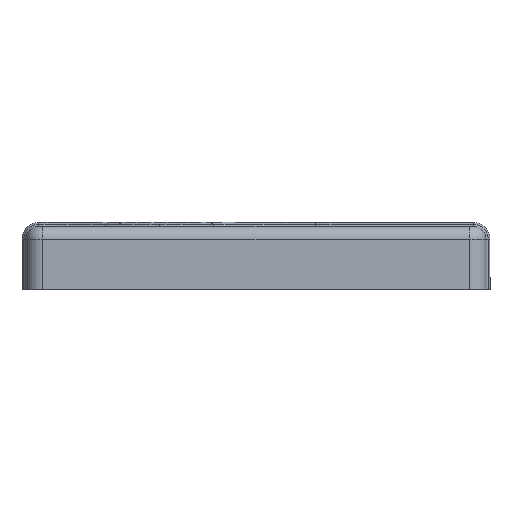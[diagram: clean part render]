
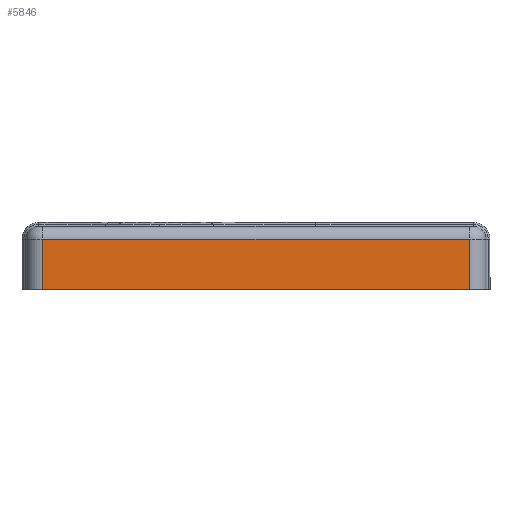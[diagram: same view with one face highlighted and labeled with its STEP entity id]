
A CAD part, top view. The second image highlights one B-rep face of the part: STEP entity #5846.
In plain terms, the highlighted planar face has unit normal (0, 0, 1).
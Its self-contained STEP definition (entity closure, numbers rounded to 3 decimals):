
#696 = DIRECTION ( 'NONE',  ( 0., -1., 0. ) ) ;
#700 = LINE ( 'NONE', #19229, #17633 ) ;
#794 = PLANE ( 'NONE',  #7027 ) ;
#2141 = LINE ( 'NONE', #11559, #12870 ) ;
#2233 = FACE_OUTER_BOUND ( 'NONE', #13008, .T. ) ;
#2243 = DIRECTION ( 'NONE',  ( 0., 1., 0. ) ) ;
#2321 = VERTEX_POINT ( 'NONE', #15781 ) ;
#2425 = CARTESIAN_POINT ( 'NONE',  ( -55., 14., 32.5 ) ) ;
#2499 = ORIENTED_EDGE ( 'NONE', *, *, #13338, .T. ) ;
#2603 = DIRECTION ( 'NONE',  ( -1., 0., 0. ) ) ;
#3644 = VECTOR ( 'NONE', #18708, 1000. ) ;
#5846 = ADVANCED_FACE ( 'NONE', ( #2233 ), #794, .F. ) ;
#6297 = CARTESIAN_POINT ( 'NONE',  ( 51., 11., 32.5 ) ) ;
#6442 = LINE ( 'NONE', #14410, #3644 ) ;
#6831 = EDGE_CURVE ( 'NONE', #2321, #18109, #2141, .T. ) ;
#6943 = DIRECTION ( 'NONE',  ( 0., 0., -1. ) ) ;
#7027 = AXIS2_PLACEMENT_3D ( 'NONE', #2425, #6943, #7043 ) ;
#7043 = DIRECTION ( 'NONE',  ( -1., 0., 0. ) ) ;
#7396 = CARTESIAN_POINT ( 'NONE',  ( 51., -1., 32.5 ) ) ;
#9453 = EDGE_CURVE ( 'NONE', #12752, #2321, #6442, .T. ) ;
#11559 = CARTESIAN_POINT ( 'NONE',  ( -51., 14., 32.5 ) ) ;
#12530 = CARTESIAN_POINT ( 'NONE',  ( -51., -1., 32.5 ) ) ;
#12752 = VERTEX_POINT ( 'NONE', #6297 ) ;
#12817 = ORIENTED_EDGE ( 'NONE', *, *, #9453, .T. ) ;
#12870 = VECTOR ( 'NONE', #696, 1000. ) ;
#13008 = EDGE_LOOP ( 'NONE', ( #14089, #16910, #2499, #12817 ) ) ;
#13338 = EDGE_CURVE ( 'NONE', #13633, #12752, #700, .T. ) ;
#13633 = VERTEX_POINT ( 'NONE', #19652 ) ;
#14089 = ORIENTED_EDGE ( 'NONE', *, *, #6831, .T. ) ;
#14229 = VECTOR ( 'NONE', #2603, 1000. ) ;
#14410 = CARTESIAN_POINT ( 'NONE',  ( -51., 11., 32.5 ) ) ;
#15781 = CARTESIAN_POINT ( 'NONE',  ( -51., 11., 32.5 ) ) ;
#16630 = EDGE_CURVE ( 'Edge3', #13633, #18109, #18447, .T. ) ;
#16910 = ORIENTED_EDGE ( 'NONE', *, *, #16630, .F. ) ;
#17633 = VECTOR ( 'NONE', #2243, 1000. ) ;
#18109 = VERTEX_POINT ( 'NONE', #12530 ) ;
#18447 = LINE ( 'NONE', #7396, #14229 ) ;
#18708 = DIRECTION ( 'NONE',  ( -1., 0., 0. ) ) ;
#19229 = CARTESIAN_POINT ( 'NONE',  ( 51., 14., 32.5 ) ) ;
#19652 = CARTESIAN_POINT ( 'NONE',  ( 51., -1., 32.5 ) ) ;
